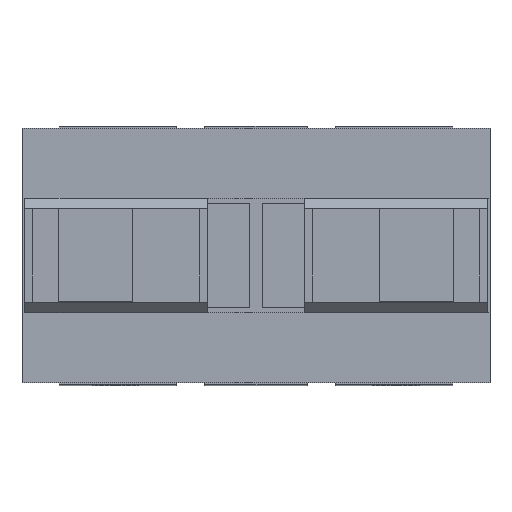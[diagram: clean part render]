
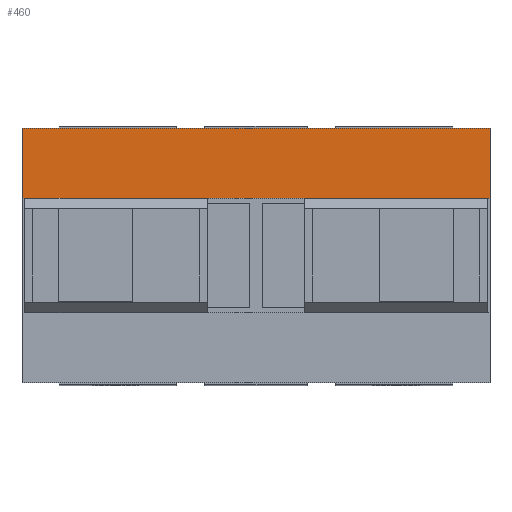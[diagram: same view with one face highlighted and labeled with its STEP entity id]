
A CAD part, top view. The second image highlights one B-rep face of the part: STEP entity #460.
In plain terms, the highlighted planar face has unit normal (0, 0, 1).
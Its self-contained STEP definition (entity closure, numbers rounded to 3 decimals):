
#460 = ADVANCED_FACE( '', ( #977 ), #978, .F. );
#977 = FACE_OUTER_BOUND( '', #1529, .T. );
#978 = PLANE( '', #1530 );
#1529 = EDGE_LOOP( '', ( #2685, #2686, #2687, #2688 ) );
#1530 = AXIS2_PLACEMENT_3D( '', #2689, #2690, #2691 );
#2685 = ORIENTED_EDGE( '', *, *, #3485, .T. );
#2686 = ORIENTED_EDGE( '', *, *, #3124, .F. );
#2687 = ORIENTED_EDGE( '', *, *, #3249, .F. );
#2688 = ORIENTED_EDGE( '', *, *, #3502, .T. );
#2689 = CARTESIAN_POINT( '', ( 25., 13.6, 62.3 ) );
#2690 = DIRECTION( '', ( 0., 0., -1. ) );
#2691 = DIRECTION( '', ( -1., 0., 0. ) );
#3124 = EDGE_CURVE( '', #3690, #3692, #3693, .T. );
#3249 = EDGE_CURVE( '', #3904, #3690, #3906, .T. );
#3485 = EDGE_CURVE( '', #4264, #3692, #4265, .T. );
#3502 = EDGE_CURVE( '', #3904, #4264, #4285, .T. );
#3690 = VERTEX_POINT( '', #4514 );
#3692 = VERTEX_POINT( '', #4517 );
#3693 = LINE( '', #4518, #4519 );
#3904 = VERTEX_POINT( '', #4809 );
#3906 = LINE( '', #4812, #4813 );
#4264 = VERTEX_POINT( '', #5306 );
#4265 = LINE( '', #5307, #5308 );
#4285 = LINE( '', #5335, #5336 );
#4514 = CARTESIAN_POINT( '', ( 25., 6.1, 62.3 ) );
#4517 = CARTESIAN_POINT( '', ( -25., 6.1, 62.3 ) );
#4518 = CARTESIAN_POINT( '', ( 25., 6.1, 62.3 ) );
#4519 = VECTOR( '', #5567, 1000. );
#4809 = CARTESIAN_POINT( '', ( 25., 13.6, 62.3 ) );
#4812 = CARTESIAN_POINT( '', ( 25., 13.6, 62.3 ) );
#4813 = VECTOR( '', #5705, 1000. );
#5306 = CARTESIAN_POINT( '', ( -25., 13.6, 62.3 ) );
#5307 = CARTESIAN_POINT( '', ( -25., 13.6, 62.3 ) );
#5308 = VECTOR( '', #5976, 1000. );
#5335 = CARTESIAN_POINT( '', ( 25., 13.6, 62.3 ) );
#5336 = VECTOR( '', #5990, 1000. );
#5567 = DIRECTION( '', ( -1., 0., 0. ) );
#5705 = DIRECTION( '', ( 0., -1., 0. ) );
#5976 = DIRECTION( '', ( 0., -1., 0. ) );
#5990 = DIRECTION( '', ( -1., 0., 0. ) );
